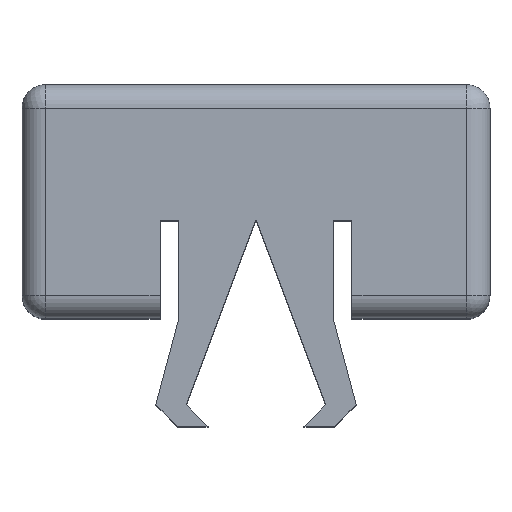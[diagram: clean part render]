
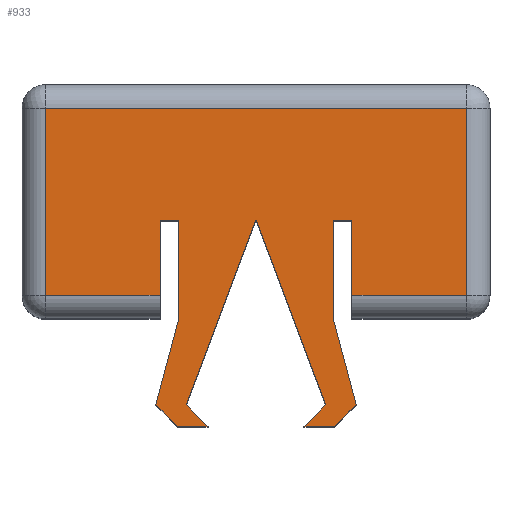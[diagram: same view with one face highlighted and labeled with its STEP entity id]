
A CAD part, top view. The second image highlights one B-rep face of the part: STEP entity #933.
In plain terms, the highlighted planar face has unit normal (0, 0, 1).
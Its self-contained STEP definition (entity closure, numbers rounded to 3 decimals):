
#39=PLANE('',#1021);
#56=LINE('',#1368,#156);
#60=LINE('',#1384,#160);
#63=LINE('',#1392,#163);
#67=LINE('',#1398,#167);
#72=LINE('',#1411,#172);
#99=LINE('',#1467,#199);
#102=LINE('',#1473,#202);
#112=LINE('',#1494,#212);
#115=LINE('',#1500,#215);
#118=LINE('',#1505,#218);
#120=LINE('',#1509,#220);
#122=LINE('',#1513,#222);
#124=LINE('',#1517,#224);
#126=LINE('',#1522,#226);
#129=LINE('',#1527,#229);
#131=LINE('',#1531,#231);
#133=LINE('',#1534,#233);
#134=LINE('',#1536,#234);
#135=LINE('',#1538,#235);
#136=LINE('',#1542,#236);
#138=LINE('',#1546,#238);
#140=LINE('',#1549,#240);
#156=VECTOR('',#1104,10.);
#160=VECTOR('',#1122,10.);
#163=VECTOR('',#1131,10.);
#167=VECTOR('',#1139,10.);
#172=VECTOR('',#1152,10.);
#199=VECTOR('',#1195,10.);
#202=VECTOR('',#1202,10.);
#212=VECTOR('',#1220,10.);
#215=VECTOR('',#1225,10.);
#218=VECTOR('',#1230,10.);
#220=VECTOR('',#1234,10.);
#222=VECTOR('',#1238,10.);
#224=VECTOR('',#1242,10.);
#226=VECTOR('',#1246,10.);
#229=VECTOR('',#1251,10.);
#231=VECTOR('',#1255,10.);
#233=VECTOR('',#1259,10.);
#234=VECTOR('',#1262,10.);
#235=VECTOR('',#1265,10.);
#236=VECTOR('',#1270,10.);
#238=VECTOR('',#1274,10.);
#240=VECTOR('',#1278,10.);
#313=FACE_OUTER_BOUND('',#367,.T.);
#367=EDGE_LOOP('',(#833,#834,#835,#836,#837,#838,#839,#840,#841,#842,#843,
#844,#845,#846,#847,#848,#849,#850,#851,#852,#853,#854));
#409=VERTEX_POINT('',#1320);
#414=VERTEX_POINT('',#1335);
#423=VERTEX_POINT('',#1360);
#428=VERTEX_POINT('',#1376);
#432=VERTEX_POINT('',#1390);
#435=VERTEX_POINT('',#1407);
#457=VERTEX_POINT('',#1465);
#458=VERTEX_POINT('',#1472);
#464=VERTEX_POINT('',#1492);
#465=VERTEX_POINT('',#1493);
#466=VERTEX_POINT('',#1498);
#467=VERTEX_POINT('',#1499);
#468=VERTEX_POINT('',#1504);
#469=VERTEX_POINT('',#1508);
#470=VERTEX_POINT('',#1512);
#471=VERTEX_POINT('',#1516);
#472=VERTEX_POINT('',#1520);
#473=VERTEX_POINT('',#1521);
#474=VERTEX_POINT('',#1526);
#475=VERTEX_POINT('',#1530);
#476=VERTEX_POINT('',#1541);
#477=VERTEX_POINT('',#1545);
#511=EDGE_CURVE('',#423,#414,#56,.T.);
#519=EDGE_CURVE('',#428,#423,#60,.T.);
#523=EDGE_CURVE('',#432,#428,#63,.T.);
#527=EDGE_CURVE('',#414,#409,#67,.T.);
#534=EDGE_CURVE('',#409,#435,#72,.T.);
#563=EDGE_CURVE('',#457,#432,#99,.T.);
#566=EDGE_CURVE('',#435,#458,#102,.T.);
#576=EDGE_CURVE('',#464,#465,#112,.T.);
#579=EDGE_CURVE('',#466,#467,#115,.T.);
#582=EDGE_CURVE('',#468,#466,#118,.T.);
#584=EDGE_CURVE('',#469,#468,#120,.T.);
#586=EDGE_CURVE('',#470,#469,#122,.T.);
#588=EDGE_CURVE('',#458,#471,#124,.T.);
#590=EDGE_CURVE('',#472,#473,#126,.T.);
#593=EDGE_CURVE('',#474,#472,#129,.T.);
#595=EDGE_CURVE('',#475,#474,#131,.T.);
#597=EDGE_CURVE('',#465,#475,#133,.T.);
#598=EDGE_CURVE('',#471,#470,#134,.T.);
#599=EDGE_CURVE('',#467,#464,#135,.T.);
#600=EDGE_CURVE('',#476,#457,#136,.T.);
#602=EDGE_CURVE('',#477,#476,#138,.T.);
#604=EDGE_CURVE('',#473,#477,#140,.T.);
#833=ORIENTED_EDGE('',*,*,#523,.F.);
#834=ORIENTED_EDGE('',*,*,#563,.F.);
#835=ORIENTED_EDGE('',*,*,#600,.F.);
#836=ORIENTED_EDGE('',*,*,#602,.F.);
#837=ORIENTED_EDGE('',*,*,#604,.F.);
#838=ORIENTED_EDGE('',*,*,#590,.F.);
#839=ORIENTED_EDGE('',*,*,#593,.F.);
#840=ORIENTED_EDGE('',*,*,#595,.F.);
#841=ORIENTED_EDGE('',*,*,#597,.F.);
#842=ORIENTED_EDGE('',*,*,#576,.F.);
#843=ORIENTED_EDGE('',*,*,#599,.F.);
#844=ORIENTED_EDGE('',*,*,#579,.F.);
#845=ORIENTED_EDGE('',*,*,#582,.F.);
#846=ORIENTED_EDGE('',*,*,#584,.F.);
#847=ORIENTED_EDGE('',*,*,#586,.F.);
#848=ORIENTED_EDGE('',*,*,#598,.F.);
#849=ORIENTED_EDGE('',*,*,#588,.F.);
#850=ORIENTED_EDGE('',*,*,#566,.F.);
#851=ORIENTED_EDGE('',*,*,#534,.F.);
#852=ORIENTED_EDGE('',*,*,#527,.F.);
#853=ORIENTED_EDGE('',*,*,#511,.F.);
#854=ORIENTED_EDGE('',*,*,#519,.F.);
#933=ADVANCED_FACE('',(#313),#39,.T.);
#1021=AXIS2_PLACEMENT_3D('',#1558,#1285,#1286);
#1104=DIRECTION('',(1.,0.,0.));
#1122=DIRECTION('',(0.,1.,0.));
#1131=DIRECTION('',(-1.,0.,0.));
#1139=DIRECTION('',(0.,-1.,0.));
#1152=DIRECTION('',(-1.,0.,0.));
#1195=DIRECTION('',(0.,-1.,0.));
#1202=DIRECTION('',(0.,1.,0.));
#1220=DIRECTION('',(-1.,0.,0.));
#1225=DIRECTION('',(0.707,0.707,0.));
#1230=DIRECTION('',(-1.,0.,0.));
#1234=DIRECTION('',(-0.707,-0.707,0.));
#1238=DIRECTION('',(0.259,-0.966,0.));
#1242=DIRECTION('',(-1.,0.,0.));
#1246=DIRECTION('',(-0.707,0.707,0.));
#1251=DIRECTION('',(-1.,0.,0.));
#1255=DIRECTION('',(0.707,-0.707,0.));
#1259=DIRECTION('',(-0.351,-0.936,0.));
#1262=DIRECTION('',(0.,-1.,0.));
#1265=DIRECTION('',(-0.351,0.936,0.));
#1270=DIRECTION('',(-1.,0.,0.));
#1274=DIRECTION('',(0.,1.,0.));
#1278=DIRECTION('',(0.259,0.966,0.));
#1285=DIRECTION('center_axis',(0.,0.,
1.));
#1286=DIRECTION('ref_axis',(1.,0.,0.));
#1320=CARTESIAN_POINT('',(4.5,-4.5,10.));
#1335=CARTESIAN_POINT('',(4.5,-0.5,10.));
#1360=CARTESIAN_POINT('',(-4.5,-0.5,10.));
#1368=CARTESIAN_POINT('',(0.,-0.5,10.));
#1376=CARTESIAN_POINT('',(-4.5,-4.5,10.));
#1384=CARTESIAN_POINT('',(-4.5,-3.076,10.));
#1390=CARTESIAN_POINT('',(-2.05,-4.5,10.));
#1392=CARTESIAN_POINT('',(1.375,-4.5,10.));
#1398=CARTESIAN_POINT('',(4.5,-3.076,10.));
#1407=CARTESIAN_POINT('',(2.05,-4.5,10.));
#1411=CARTESIAN_POINT('',(3.525,-4.5,10.));
#1465=CARTESIAN_POINT('',(-2.05,-2.9,10.));
#1467=CARTESIAN_POINT('',(-2.05,-4.826,10.));
#1472=CARTESIAN_POINT('',(2.05,-2.9,10.));
#1473=CARTESIAN_POINT('',(2.05,-3.776,10.));
#1492=CARTESIAN_POINT('',(0.01,-2.9,10.));
#1493=CARTESIAN_POINT('',(-0.01,-2.9,10.));
#1494=CARTESIAN_POINT('',(-0.005,-2.9,10.));
#1498=CARTESIAN_POINT('',(1.025,-7.306,10.));
#1499=CARTESIAN_POINT('',(1.488,-6.842,10.));
#1500=CARTESIAN_POINT('',(1.664,-6.667,10.));
#1504=CARTESIAN_POINT('',(1.675,-7.306,10.));
#1505=CARTESIAN_POINT('',(0.513,-7.306,10.));
#1508=CARTESIAN_POINT('',(2.141,-6.84,10.));
#1509=CARTESIAN_POINT('',(1.92,-7.061,10.));
#1512=CARTESIAN_POINT('',(1.648,-5.,10.));
#1513=CARTESIAN_POINT('',(1.796,-5.552,10.));
#1516=CARTESIAN_POINT('',(1.648,-2.9,10.));
#1517=CARTESIAN_POINT('',(0.824,-2.9,10.));
#1520=CARTESIAN_POINT('',(-1.675,-7.306,10.));
#1521=CARTESIAN_POINT('',(-2.141,-6.84,10.));
#1522=CARTESIAN_POINT('',(-2.153,-6.828,10.));
#1526=CARTESIAN_POINT('',(-1.025,-7.306,10.));
#1527=CARTESIAN_POINT('',(-0.838,-7.306,10.));
#1530=CARTESIAN_POINT('',(-1.488,-6.842,10.));
#1531=CARTESIAN_POINT('',(-1.432,-6.899,10.));
#1534=CARTESIAN_POINT('',(-1.037,-5.638,10.));
#1536=CARTESIAN_POINT('',(1.648,-4.826,10.));
#1538=CARTESIAN_POINT('',(0.298,-3.667,10.));
#1541=CARTESIAN_POINT('',(-1.648,-2.9,10.));
#1542=CARTESIAN_POINT('',(-1.025,-2.9,10.));
#1545=CARTESIAN_POINT('',(-1.648,-5.,10.));
#1546=CARTESIAN_POINT('',(-1.648,-3.776,10.));
#1549=CARTESIAN_POINT('',(-1.55,-4.632,10.));
#1558=CARTESIAN_POINT('Origin',(5.,-1.5,10.));
